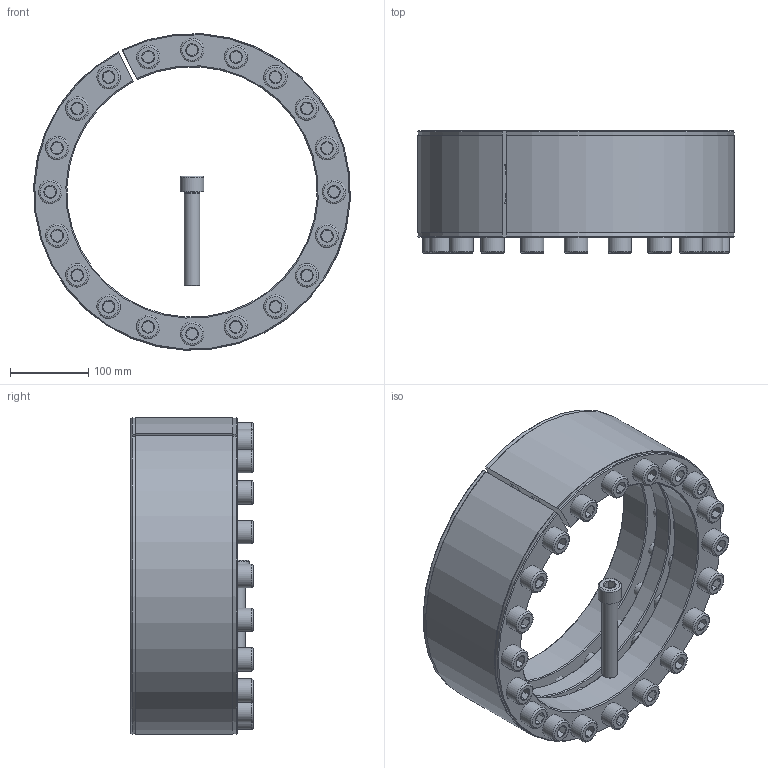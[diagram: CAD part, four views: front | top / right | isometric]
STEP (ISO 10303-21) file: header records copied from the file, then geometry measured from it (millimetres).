
FILE_DESCRIPTION( ( 'Unknown' ), '1' );
FILE_NAME( 'C:/Users/Frank/Eigene Daten/CAD/Solid Edge/KBK Karpstein/KBS Layout Baureihen/KBS 18/KBS - 320 x 405.stp', 'Unknown', ( 'Unknown' ), ( 'Unknown' ), 'XStep 1.0', 'Unknown', ' ' );
FILE_SCHEMA( ( 'automotive_design' ) );
Length unit declared in the file: millimetre
Products named in the file (3): Assem1; KBS 18 - 320 x 405; ISO EN DIN 4762 M20x120
Bounding box: 404.48 x 156 x 404.34 mm (x, y, z)
Volume: 10622957.3 mm3; surface area: 1554617.6 mm2
Topology: 23 solids, 23 shells, 697 faces, 1459 edges, 892 vertices
Faces by surface type: plane 272, cylinder 212, cone 171, torus 42
Full cylindrical faces by diameter (mm): 17.294 x40, 18 x21, 20 x42, 22 x80, 30 x21
Entity records: 3858 total; most frequent: CARTESIAN_POINT 689, DIRECTION 624, ORIENTED_EDGE 454, EDGE_LOOP 302, AXIS2_PLACEMENT_3D 294, EDGE_CURVE 227, VERTEX_POINT 191, FACE_OUTER_BOUND 177
